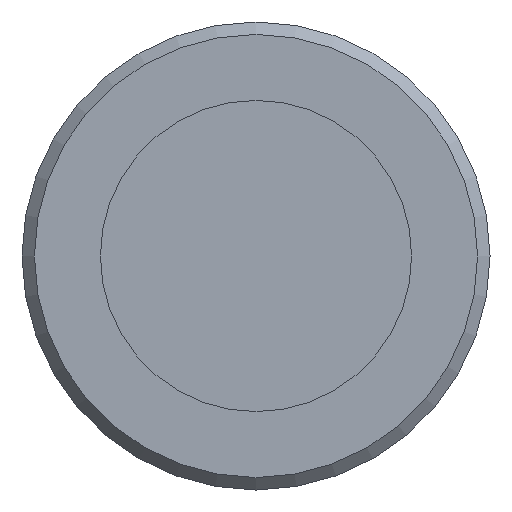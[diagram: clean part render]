
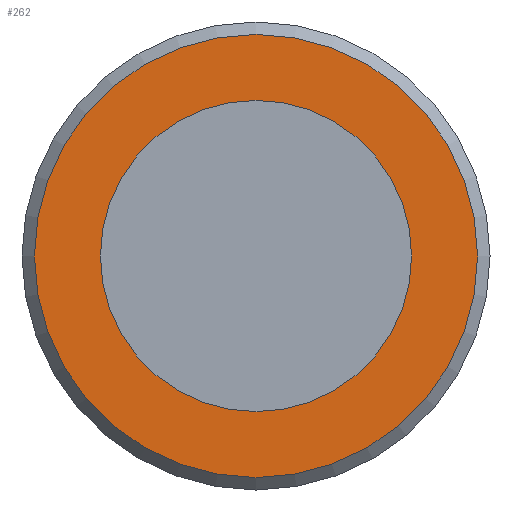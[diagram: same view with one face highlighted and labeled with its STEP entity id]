
A CAD part, left-side view. The second image highlights one B-rep face of the part: STEP entity #262.
In plain terms, the highlighted planar face has unit normal (-1, 0, 0).
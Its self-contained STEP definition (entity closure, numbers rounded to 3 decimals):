
#22=PLANE($,#303);
#42=FACE_BOUND($,#97,.T.);
#43=FACE_BOUND($,#98,.T.);
#97=EDGE_LOOP($,(#202));
#98=EDGE_LOOP($,(#203));
#114=CIRCLE($,#282,1.588);
#125=CIRCLE($,#304,2.261);
#135=VERTEX_POINT($,#419);
#146=VERTEX_POINT($,#452);
#156=EDGE_CURVE($,#135,#135,#114,.T.);
#167=EDGE_CURVE($,#146,#146,#125,.T.);
#202=ORIENTED_EDGE($,*,*,#156,.T.);
#203=ORIENTED_EDGE($,*,*,#167,.F.);
#262=ADVANCED_FACE($,(#42,#43),#22,.T.);
#282=AXIS2_PLACEMENT_3D($,#420,#338,#339);
#303=AXIS2_PLACEMENT_3D($,#451,#380,#381);
#304=AXIS2_PLACEMENT_3D($,#453,#382,#383);
#338=DIRECTION('center_axis',(1.,0.,0.));
#339=DIRECTION('ref_axis',(0.,1.,0.));
#380=DIRECTION('center_axis',(-1.,0.,0.));
#381=DIRECTION('ref_axis',(0.,0.,1.));
#382=DIRECTION('center_axis',(1.,0.,0.));
#383=DIRECTION('ref_axis',(0.,-1.,0.));
#419=CARTESIAN_POINT('',(-13.188,3.753,0.));
#420=CARTESIAN_POINT('Origin',(-13.188,2.166,0.));
#451=CARTESIAN_POINT('Origin',(-13.188,3.36,0.));
#452=CARTESIAN_POINT('',(-13.188,4.427,0.));
#453=CARTESIAN_POINT('Origin',(-13.188,2.166,0.));
